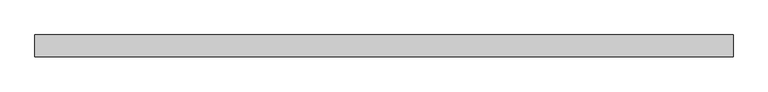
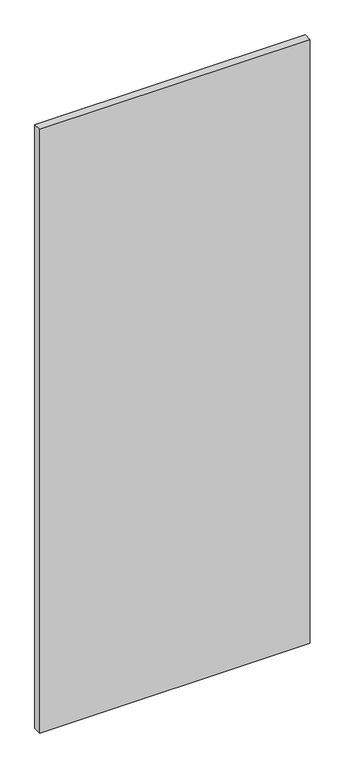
"""IFC4 building model written with IfcOpenShell, lengths in millimetres: plate geometry, Vitré."""

from ifc_helpers import new_model, si_unit, origin, origin_with_axes, place, context, project, spatial, polyline, outline, extrude, source, transform, mapped, element, save


def plate_9afddc2c(model_context):
    return source(origin(), model_context, "Body", "SweptSolid", [
        extrude(outline(polyline([(-645.0625, -20.0), (-645.0625, 20.0), (645.0625, 20.0), (645.0625, -20.0), (-645.0625, -20.0)])), origin_with_axes(), (0.0, 0.0, 1.0), 3042.625),
    ])


if __name__ == "__main__":
    model = new_model("IFC4")
    model_context = context("Model", 3, world=origin())
    ifc_project = project(units=[si_unit("LENGTHUNIT", "METRE", prefix="MILLI")], contexts=[model_context])
    site = spatial("IfcSite", under=ifc_project)
    building = spatial("IfcBuilding", under=site)
    placement = place(None, origin())
    plate_shape = plate_9afddc2c(model_context)
    element("IfcPlate", 1, ObjectType="Vitré", at=placement, inside=building, context=model_context, shape_type="MappedRepresentation", body=[
        mapped(plate_shape, transform((0.0, 0.0, 0.0), x_axis=(1.0, 0.0, 0.0), y_axis=(0.0, 1.0, 0.0), z_axis=(0.0, 0.0, 1.0))),
    ])
    save(model, "model.ifc")
